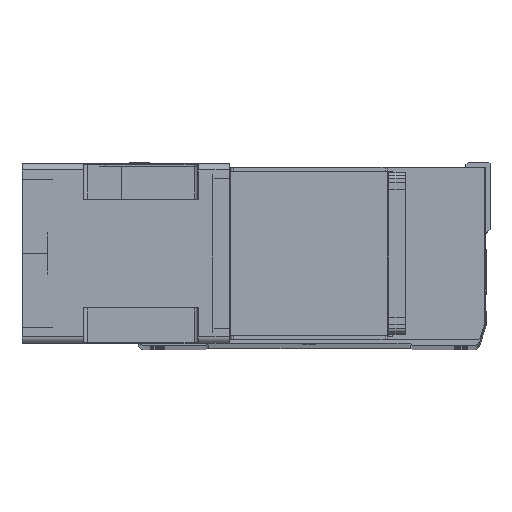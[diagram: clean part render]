
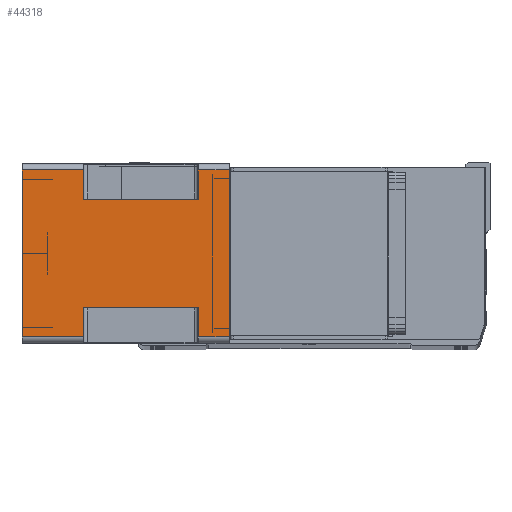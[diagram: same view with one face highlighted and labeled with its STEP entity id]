
A CAD part, top view. The second image highlights one B-rep face of the part: STEP entity #44318.
In plain terms, the highlighted planar face has unit normal (0, 0, 1) as drawn and (-1, 0, 0) by its records, which use the part's own axes.
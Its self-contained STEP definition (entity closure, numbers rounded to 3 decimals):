
#285 = CARTESIAN_POINT ( 'NONE',  ( -71., -43., -115.5 ) ) ;
#556 = CARTESIAN_POINT ( 'NONE',  ( -71., -66., -164. ) ) ;
#559 = DIRECTION ( 'NONE',  ( 0., 1., 0. ) ) ;
#836 = LINE ( 'NONE', #43469, #9589 ) ;
#1909 = CARTESIAN_POINT ( 'NONE',  ( -71., 43., -24.5 ) ) ;
#2639 = AXIS2_PLACEMENT_3D ( 'NONE', #16681, #16384, #44394 ) ;
#2676 = EDGE_CURVE ( 'NONE', #7430, #33679, #7552, .T. ) ;
#3213 = LINE ( 'NONE', #13025, #20848 ) ;
#3597 = CARTESIAN_POINT ( 'NONE',  ( -71., 66., -164. ) ) ;
#3858 = VERTEX_POINT ( 'NONE', #39337 ) ;
#3964 = LINE ( 'NONE', #1909, #43992 ) ;
#4575 = DIRECTION ( 'NONE',  ( 0., 0., 1. ) ) ;
#4705 = CARTESIAN_POINT ( 'NONE',  ( -71., 43., -164. ) ) ;
#5003 = CARTESIAN_POINT ( 'NONE',  ( -71., 43., -115.5 ) ) ;
#5398 = VERTEX_POINT ( 'NONE', #21293 ) ;
#5910 = VECTOR ( 'NONE', #13372, 1000. ) ;
#6524 = EDGE_CURVE ( 'NONE', #13712, #5398, #24069, .T. ) ;
#7052 = ORIENTED_EDGE ( 'NONE', *, *, #12858, .T. ) ;
#7333 = VECTOR ( 'NONE', #18394, 1000. ) ;
#7430 = VERTEX_POINT ( 'NONE', #5003 ) ;
#7551 = CARTESIAN_POINT ( 'NONE',  ( -71., 66., -164. ) ) ;
#7552 = LINE ( 'NONE', #4705, #40427 ) ;
#8432 = EDGE_CURVE ( 'NONE', #20985, #3858, #34970, .T. ) ;
#8693 = ORIENTED_EDGE ( 'NONE', *, *, #39667, .F. ) ;
#8766 = DIRECTION ( 'NONE',  ( 0., -1., 0. ) ) ;
#9507 = EDGE_LOOP ( 'NONE', ( #16726, #32977, #12800, #7052, #9785, #8693, #20882, #22360, #38617, #45214, #20374, #25933 ) ) ;
#9589 = VECTOR ( 'NONE', #15462, 1000. ) ;
#9785 = ORIENTED_EDGE ( 'NONE', *, *, #21200, .T. ) ;
#10859 = LINE ( 'NONE', #40473, #16942 ) ;
#11914 = CARTESIAN_POINT ( 'NONE',  ( -71., 43., -24.5 ) ) ;
#12800 = ORIENTED_EDGE ( 'NONE', *, *, #18147, .F. ) ;
#12858 = EDGE_CURVE ( 'NONE', #44272, #44630, #43743, .T. ) ;
#13025 = CARTESIAN_POINT ( 'NONE',  ( -71., -43., -164. ) ) ;
#13145 = PLANE ( 'NONE',  #2639 ) ;
#13372 = DIRECTION ( 'NONE',  ( 0., 0., 1. ) ) ;
#13712 = VERTEX_POINT ( 'NONE', #24977 ) ;
#14175 = VECTOR ( 'NONE', #39493, 1000. ) ;
#15462 = DIRECTION ( 'NONE',  ( 0., 0., 1. ) ) ;
#15561 = DIRECTION ( 'NONE',  ( 0., -1., 0. ) ) ;
#16384 = DIRECTION ( 'NONE',  ( -1., 0., 0. ) ) ;
#16681 = CARTESIAN_POINT ( 'NONE',  ( -71., -66., -164. ) ) ;
#16726 = ORIENTED_EDGE ( 'NONE', *, *, #44202, .T. ) ;
#16942 = VECTOR ( 'NONE', #15561, 1000. ) ;
#18146 = DIRECTION ( 'NONE',  ( 0., 0., 1. ) ) ;
#18147 = EDGE_CURVE ( 'NONE', #44272, #5398, #3213, .T. ) ;
#18394 = DIRECTION ( 'NONE',  ( 0., 0., 1. ) ) ;
#19975 = CARTESIAN_POINT ( 'NONE',  ( -71., -66., 0. ) ) ;
#20374 = ORIENTED_EDGE ( 'NONE', *, *, #30685, .F. ) ;
#20848 = VECTOR ( 'NONE', #37520, 1000. ) ;
#20882 = ORIENTED_EDGE ( 'NONE', *, *, #8432, .F. ) ;
#20985 = VERTEX_POINT ( 'NONE', #45086 ) ;
#21200 = EDGE_CURVE ( 'NONE', #44630, #36763, #24294, .T. ) ;
#21293 = CARTESIAN_POINT ( 'NONE',  ( -71., -43., -115.5 ) ) ;
#22360 = ORIENTED_EDGE ( 'NONE', *, *, #33189, .T. ) ;
#22378 = LINE ( 'NONE', #28338, #44811 ) ;
#22407 = VERTEX_POINT ( 'NONE', #33482 ) ;
#22410 = EDGE_CURVE ( 'NONE', #30311, #41195, #10859, .T. ) ;
#22468 = CARTESIAN_POINT ( 'NONE',  ( -71., -66., -24.5 ) ) ;
#23219 = VECTOR ( 'NONE', #18146, 1000. ) ;
#23680 = CARTESIAN_POINT ( 'NONE',  ( -71., 66., -164. ) ) ;
#24069 = LINE ( 'NONE', #285, #14175 ) ;
#24294 = LINE ( 'NONE', #24848, #23219 ) ;
#24418 = FACE_OUTER_BOUND ( 'NONE', #9507, .T. ) ;
#24848 = CARTESIAN_POINT ( 'NONE',  ( -71., -66., -164. ) ) ;
#24977 = CARTESIAN_POINT ( 'NONE',  ( -71., -66., -115.5 ) ) ;
#25933 = ORIENTED_EDGE ( 'NONE', *, *, #22410, .T. ) ;
#26464 = DIRECTION ( 'NONE',  ( 0., -1., 0. ) ) ;
#28338 = CARTESIAN_POINT ( 'NONE',  ( -71., -66., -115.5 ) ) ;
#29916 = DIRECTION ( 'NONE',  ( 0., -1., 0. ) ) ;
#30311 = VERTEX_POINT ( 'NONE', #7551 ) ;
#30563 = CARTESIAN_POINT ( 'NONE',  ( -71., -66., -24.5 ) ) ;
#30685 = EDGE_CURVE ( 'NONE', #30311, #22407, #34791, .T. ) ;
#31113 = VECTOR ( 'NONE', #8766, 1000. ) ;
#31390 = LINE ( 'NONE', #19975, #39034 ) ;
#32977 = ORIENTED_EDGE ( 'NONE', *, *, #6524, .T. ) ;
#33189 = EDGE_CURVE ( 'NONE', #20985, #33679, #3964, .T. ) ;
#33482 = CARTESIAN_POINT ( 'NONE',  ( -71., 66., -115.5 ) ) ;
#33679 = VERTEX_POINT ( 'NONE', #11914 ) ;
#34514 = CARTESIAN_POINT ( 'NONE',  ( -71., -66., 0. ) ) ;
#34791 = LINE ( 'NONE', #3597, #7333 ) ;
#34970 = LINE ( 'NONE', #23680, #5910 ) ;
#36763 = VERTEX_POINT ( 'NONE', #34514 ) ;
#37520 = DIRECTION ( 'NONE',  ( 0., 0., -1. ) ) ;
#37850 = EDGE_CURVE ( 'NONE', #7430, #22407, #22378, .T. ) ;
#38617 = ORIENTED_EDGE ( 'NONE', *, *, #2676, .F. ) ;
#39034 = VECTOR ( 'NONE', #29916, 1000. ) ;
#39337 = CARTESIAN_POINT ( 'NONE',  ( -71., 66., 0. ) ) ;
#39493 = DIRECTION ( 'NONE',  ( 0., 1., 0. ) ) ;
#39667 = EDGE_CURVE ( 'NONE', #3858, #36763, #31390, .T. ) ;
#40427 = VECTOR ( 'NONE', #4575, 1000. ) ;
#40473 = CARTESIAN_POINT ( 'NONE',  ( -71., -66., -164. ) ) ;
#40527 = CARTESIAN_POINT ( 'NONE',  ( -71., -43., -24.5 ) ) ;
#41195 = VERTEX_POINT ( 'NONE', #556 ) ;
#43469 = CARTESIAN_POINT ( 'NONE',  ( -71., -66., -164. ) ) ;
#43743 = LINE ( 'NONE', #22468, #31113 ) ;
#43992 = VECTOR ( 'NONE', #26464, 1000. ) ;
#44202 = EDGE_CURVE ( 'NONE', #41195, #13712, #836, .T. ) ;
#44272 = VERTEX_POINT ( 'NONE', #40527 ) ;
#44318 = ADVANCED_FACE ( 'NONE', ( #24418 ), #13145, .T. ) ;
#44394 = DIRECTION ( 'NONE',  ( 0., -1., 0. ) ) ;
#44630 = VERTEX_POINT ( 'NONE', #30563 ) ;
#44811 = VECTOR ( 'NONE', #559, 1000. ) ;
#45086 = CARTESIAN_POINT ( 'NONE',  ( -71., 66., -24.5 ) ) ;
#45214 = ORIENTED_EDGE ( 'NONE', *, *, #37850, .T. ) ;
